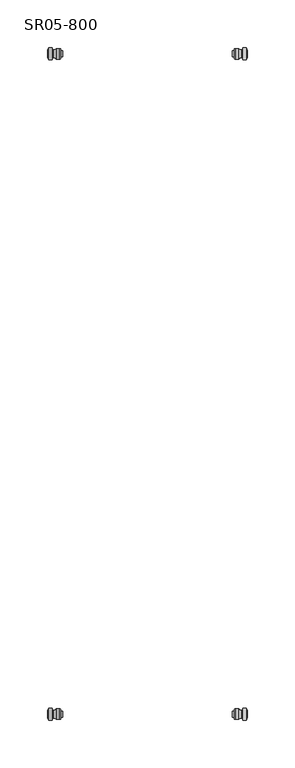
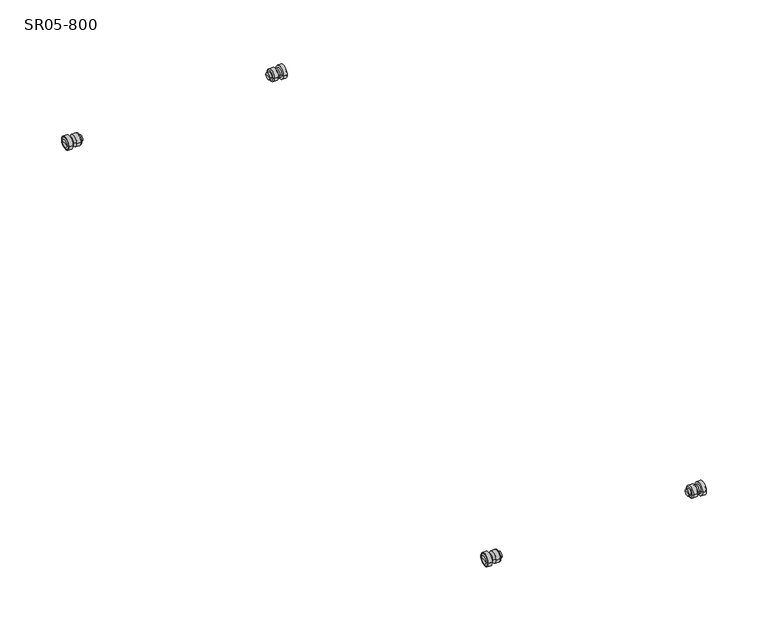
"""IFC4 building model written with IfcOpenShell, lengths in millimetres: proxy geometry, Уголки : SR05-800."""

from ifc_helpers import new_model, si_unit, point, frame, origin, place, context, project, spatial, circle_curve, ellipse_curve, trimmed, source, transform, mapped, element, save
from ifc_brep_helpers import plane_surface, cylinder_surface, revolved_surface, advanced_brep


def sr05_800_1027cb62(model_context):
    return source(origin(), model_context, "Body", "AdvancedBrep", [
        advanced_brep(
        [(104.3500066, -345.0, 24.0), (104.3500066, -348.4999948, 24.0), (104.3500066, -341.5000052, 24.0), (88.7499958, -342.0000014, 24.0), (88.7499958, -347.9999986, 24.0), (88.7499958, -345.0, 24.0), (90.7999933, -342.0000014, 24.0), (90.7999933, -347.9999986, 24.0), (90.7999933, -340.5000058, 24.0), (90.7999933, -349.4999942, 24.0), (91.7999994, -339.5000052, 24.0), (91.7999994, -350.4999948, 24.0), (95.7999994, -339.5000038, 24.0), (95.7999994, -350.4999962, 24.0), (97.9999959, -340.8266569, 24.0), (97.9999959, -349.1733431, 24.0), (100.0, -338.7499985, 24.0), (100.0, -351.2500015, 24.0), (100.0, -349.1733431, 24.0), (100.0, -340.8266569, 24.0), (103.4999996, -338.7499985, 24.0), (103.4999996, -351.2500015, 24.0), (103.4999996, -339.6218414, 24.0), (103.4999996, -350.3781586, 24.0)],
        [
            (0, 1),
            (1, 2, circle_curve(frame((104.3500066, -345.0, 24.0), z_axis=(1.0, 0.0, 0.0), x_axis=(0.0, -1.0, 0.0)), 3.4999948)),
            (2, 0),
            (2, 1, circle_curve(frame((104.3500066, -345.0, 24.0), z_axis=(1.0, 0.0, 0.0), x_axis=(0.0, -1.0, 0.0)), 3.4999948)),
            (3, 4, circle_curve(frame((88.7499958, -345.0, 24.0), z_axis=(-1.0, 0.0, 0.0), x_axis=(0.0, -1.0, 0.0)), 2.9999986)),
            (4, 5),
            (5, 3),
            (4, 3, circle_curve(frame((88.7499958, -345.0, 24.0), z_axis=(-1.0, 0.0, 0.0), x_axis=(0.0, -1.0, 0.0)), 2.9999986)),
            (6, 7, circle_curve(frame((90.7999933, -345.0, 24.0), z_axis=(-1.0, 0.0, 0.0), x_axis=(0.0, -1.0, 0.0)), 2.9999986)),
            (7, 4),
            (3, 6),
            (7, 6, circle_curve(frame((90.7999933, -345.0, 24.0), z_axis=(-1.0, 0.0, 0.0), x_axis=(0.0, -1.0, 0.0)), 2.9999986)),
            (8, 9, circle_curve(frame((90.7999933, -345.0, 24.0), z_axis=(-1.0, 0.0, 0.0), x_axis=(0.0, -1.0, 0.0)), 4.4999942)),
            (9, 7),
            (6, 8),
            (9, 8, circle_curve(frame((90.7999933, -345.0, 24.0), z_axis=(-1.0, 0.0, 0.0), x_axis=(0.0, -1.0, 0.0)), 4.4999942)),
            (10, 11, circle_curve(frame((91.7999994, -345.0, 24.0), z_axis=(-1.0, 0.0, 0.0), x_axis=(0.0, -1.0, 0.0)), 5.4999948)),
            (11, 9, circle_curve(frame((91.7999994, -349.4999948, 24.0), z_axis=(0.0, 0.0, -1.0), x_axis=(0.0, 1.0, 0.0)), 1.0)),
            (8, 10, circle_curve(frame((91.7999994, -340.5000052, 24.0), z_axis=(0.0, 0.0, -1.0), x_axis=(0.0, -1.0, 0.0)), 1.0)),
            (11, 10, circle_curve(frame((91.7999994, -345.0, 24.0), z_axis=(-1.0, 0.0, 0.0), x_axis=(0.0, -1.0, 0.0)), 5.4999948)),
            (12, 13, circle_curve(frame((95.7999994, -345.0, 24.0), z_axis=(-1.0, 0.0, 0.0), x_axis=(0.0, -1.0, 0.0)), 5.4999962)),
            (13, 11),
            (10, 12),
            (13, 12, circle_curve(frame((95.7999994, -345.0, 24.0), z_axis=(-1.0, 0.0, 0.0), x_axis=(0.0, -1.0, 0.0)), 5.4999962)),
            (14, 15, circle_curve(frame((97.9999959, -345.0, 24.0), z_axis=(-1.0, 0.0, 0.0), x_axis=(0.0, -1.0, 0.0)), 4.1733431)),
            (15, 13, circle_curve(frame((97.2999994, -350.4999948, 24.0), z_axis=(0.0, 0.0, 1.0), x_axis=(0.0, 1.0, 0.0)), 1.5)),
            (12, 14, circle_curve(frame((97.2999994, -339.5000052, 24.0), z_axis=(0.0, 0.0, 1.0), x_axis=(0.0, -1.0, 0.0)), 1.5)),
            (15, 14, circle_curve(frame((97.9999959, -345.0, 24.0), z_axis=(-1.0, 0.0, 0.0), x_axis=(0.0, -1.0, 0.0)), 4.1733431)),
            (16, 17, circle_curve(frame((100.0, -345.0, 24.0), z_axis=(-1.0, 0.0, 0.0), x_axis=(0.0, -1.0, 0.0)), 6.2500015)),
            (17, 18),
            (18, 19, circle_curve(frame((100.0, -345.0, 24.0), z_axis=(1.0, 0.0, 0.0), x_axis=(0.0, -1.0, 0.0)), 4.1733431)),
            (19, 16),
            (17, 16, circle_curve(frame((100.0, -345.0, 24.0), z_axis=(-1.0, 0.0, 0.0), x_axis=(0.0, -1.0, 0.0)), 6.2500015)),
            (19, 18, circle_curve(frame((100.0, -345.0, 24.0), z_axis=(1.0, 0.0, 0.0), x_axis=(0.0, -1.0, 0.0)), 4.1733431)),
            (20, 21, circle_curve(frame((103.4999996, -345.0, 24.0), z_axis=(-1.0, 0.0, 0.0), x_axis=(0.0, -1.0, 0.0)), 6.2500015)),
            (21, 17),
            (16, 20),
            (21, 20, circle_curve(frame((103.4999996, -345.0, 24.0), z_axis=(-1.0, 0.0, 0.0), x_axis=(0.0, -1.0, 0.0)), 6.2500015)),
            (22, 23, circle_curve(frame((103.4999996, -345.0, 24.0), z_axis=(-1.0, 0.0, 0.0), x_axis=(0.0, -1.0, 0.0)), 5.3781586)),
            (23, 21),
            (20, 22),
            (23, 22, circle_curve(frame((103.4999996, -345.0, 24.0), z_axis=(-1.0, 0.0, 0.0), x_axis=(0.0, -1.0, 0.0)), 5.3781586)),
            (1, 23, circle_curve(frame((101.8499994, -348.4999948, 24.0), z_axis=(0.0, 0.0, -1.0), x_axis=(0.0, 1.0, 0.0)), 2.5)),
            (22, 2, circle_curve(frame((101.8499994, -341.5000052, 24.0), z_axis=(0.0, 0.0, -1.0), x_axis=(0.0, -1.0, 0.0)), 2.5)),
            (18, 15),
            (14, 19),
        ],
        [
            plane_surface(frame((104.3500066, -345.0, 24.0), z_axis=(1.0, 0.0, 0.0), x_axis=(0.0, -1.0, 0.0))),
            plane_surface(frame((88.7499958, -345.0, 24.0), z_axis=(-1.0, 0.0, 0.0), x_axis=(0.0, -1.0, 0.0))),
            cylinder_surface(frame((-1900.0, -345.0, 24.0), z_axis=(1.0, 0.0, 0.0), x_axis=(0.0, -1.0, 0.0)), 2.9999986),
            plane_surface(frame((90.7999933, -345.0, 24.0), z_axis=(-1.0, 0.0, 0.0), x_axis=(0.0, -1.0, 0.0))),
            revolved_surface(trimmed(ellipse_curve(frame((91.7999994, -349.4999948, 24.0), z_axis=(0.0, 0.0, 1.0), x_axis=(0.0, 1.0, 0.0)), 1.0, 1.0), [point((90.7999994, -349.4999948, 24.0))], [point((91.7999994, -350.4999948, 24.0))], True, "CARTESIAN"), (-1900.0, -345.0, 24.0), (1.0, 0.0, 0.0)),
            cylinder_surface(frame((-1900.0, -345.0, 24.0), z_axis=(1.0, 0.0, 0.0), x_axis=(0.0, -1.0, 0.0)), 5.4999962),
            revolved_surface(trimmed(ellipse_curve(frame((97.2999994, -350.4999948, 24.0), z_axis=(0.0, 0.0, -1.0), x_axis=(0.0, 1.0, 0.0)), 1.5, 1.5), [point((95.7999994, -350.4999962, 24.0))], [point((97.9999959, -349.1733431, 24.0))], True, "CARTESIAN"), (-1900.0, -345.0, 24.0), (1.0, 0.0, 0.0)),
            plane_surface(frame((100.0, -345.0, 24.0), z_axis=(-1.0, 0.0, 0.0), x_axis=(0.0, -1.0, 0.0))),
            cylinder_surface(frame((-1900.0, -345.0, 24.0), z_axis=(1.0, 0.0, 0.0), x_axis=(0.0, -1.0, 0.0)), 6.2500015),
            plane_surface(frame((103.4999996, -345.0, 24.0), z_axis=(1.0, 0.0, 0.0), x_axis=(0.0, -1.0, 0.0))),
            revolved_surface(trimmed(ellipse_curve(frame((101.8499994, -348.4999948, 24.0), z_axis=(0.0, 0.0, 1.0), x_axis=(0.0, 1.0, 0.0)), 2.5, 2.5), [point((103.4999996, -350.3781586, 24.0))], [point((104.3499994, -348.4999948, 24.0))], True, "CARTESIAN"), (-1900.0, -345.0, 24.0), (1.0, 0.0, 0.0)),
            cylinder_surface(frame((-1900.0, -345.0, 24.0), z_axis=(1.0, 0.0, 0.0), x_axis=(0.0, -1.0, 0.0)), 4.1733431),
        ],
        [
            (0, [[1, 2, 3]]),
            (0, [[-3, 4, -1]]),
            (1, [[5, 6, 7]]),
            (1, [[8, -7, -6]]),
            (2, [[9, 10, -5, 11]]),
            (2, [[12, -11, -8, -10]]),
            (3, [[13, 14, -9, 15]]),
            (3, [[16, -15, -12, -14]]),
            (4, [[17, 18, -13, 19]]),
            (4, [[20, -19, -16, -18]]),
            (5, [[21, 22, -17, 23]]),
            (5, [[24, -23, -20, -22]]),
            (6, [[25, 26, -21, 27]]),
            (6, [[28, -27, -24, -26]]),
            (7, [[29, 30, 31, 32]]),
            (7, [[33, -32, 34, -30]]),
            (8, [[35, 36, -29, 37]]),
            (8, [[38, -37, -33, -36]]),
            (9, [[39, 40, -35, 41]]),
            (9, [[42, -41, -38, -40]]),
            (10, [[-2, 43, -39, 44]]),
            (10, [[-4, -44, -42, -43]]),
            (11, [[-31, 45, -25, 46]]),
            (11, [[-34, -46, -28, -45]]),
        ],
    ),
        advanced_brep(
        [(104.3500066, 345.0, 24.0), (104.3500066, 341.5000052, 24.0), (104.3500066, 348.4999948, 24.0), (88.7499958, 347.9999986, 24.0), (88.7499958, 342.0000014, 24.0), (88.7499958, 345.0, 24.0), (90.7999933, 347.9999986, 24.0), (90.7999933, 342.0000014, 24.0), (90.7999933, 349.4999942, 24.0), (90.7999933, 340.5000058, 24.0), (91.7999994, 350.4999948, 24.0), (91.7999994, 339.5000052, 24.0), (95.7999994, 350.4999962, 24.0), (95.7999994, 339.5000038, 24.0), (97.9999959, 349.1733431, 24.0), (97.9999959, 340.8266569, 24.0), (100.0, 351.2500015, 24.0), (100.0, 338.7499985, 24.0), (100.0, 340.8266569, 24.0), (100.0, 349.1733431, 24.0), (103.4999996, 351.2500015, 24.0), (103.4999996, 338.7499985, 24.0), (103.4999996, 350.3781586, 24.0), (103.4999996, 339.6218414, 24.0)],
        [
            (0, 1),
            (1, 2, circle_curve(frame((104.3500066, 345.0, 24.0), z_axis=(1.0, 0.0, 0.0), x_axis=(0.0, -1.0, 0.0)), 3.4999948)),
            (2, 0),
            (2, 1, circle_curve(frame((104.3500066, 345.0, 24.0), z_axis=(1.0, 0.0, 0.0), x_axis=(0.0, -1.0, 0.0)), 3.4999948)),
            (3, 4, circle_curve(frame((88.7499958, 345.0, 24.0), z_axis=(-1.0, 0.0, 0.0), x_axis=(0.0, -1.0, 0.0)), 2.9999986)),
            (4, 5),
            (5, 3),
            (4, 3, circle_curve(frame((88.7499958, 345.0, 24.0), z_axis=(-1.0, 0.0, 0.0), x_axis=(0.0, -1.0, 0.0)), 2.9999986)),
            (6, 7, circle_curve(frame((90.7999933, 345.0, 24.0), z_axis=(-1.0, 0.0, 0.0), x_axis=(0.0, -1.0, 0.0)), 2.9999986)),
            (7, 4),
            (3, 6),
            (7, 6, circle_curve(frame((90.7999933, 345.0, 24.0), z_axis=(-1.0, 0.0, 0.0), x_axis=(0.0, -1.0, 0.0)), 2.9999986)),
            (8, 9, circle_curve(frame((90.7999933, 345.0, 24.0), z_axis=(-1.0, 0.0, 0.0), x_axis=(0.0, -1.0, 0.0)), 4.4999942)),
            (9, 7),
            (6, 8),
            (9, 8, circle_curve(frame((90.7999933, 345.0, 24.0), z_axis=(-1.0, 0.0, 0.0), x_axis=(0.0, -1.0, 0.0)), 4.4999942)),
            (10, 11, circle_curve(frame((91.7999994, 345.0, 24.0), z_axis=(-1.0, 0.0, 0.0), x_axis=(0.0, -1.0, 0.0)), 5.4999948)),
            (11, 9, circle_curve(frame((91.7999994, 340.5000052, 24.0), z_axis=(0.0, 0.0, -1.0), x_axis=(0.0, 1.0, 0.0)), 1.0)),
            (8, 10, circle_curve(frame((91.7999994, 349.4999948, 24.0), z_axis=(0.0, 0.0, -1.0), x_axis=(0.0, -1.0, 0.0)), 1.0)),
            (11, 10, circle_curve(frame((91.7999994, 345.0, 24.0), z_axis=(-1.0, 0.0, 0.0), x_axis=(0.0, -1.0, 0.0)), 5.4999948)),
            (12, 13, circle_curve(frame((95.7999994, 345.0, 24.0), z_axis=(-1.0, 0.0, 0.0), x_axis=(0.0, -1.0, 0.0)), 5.4999962)),
            (13, 11),
            (10, 12),
            (13, 12, circle_curve(frame((95.7999994, 345.0, 24.0), z_axis=(-1.0, 0.0, 0.0), x_axis=(0.0, -1.0, 0.0)), 5.4999962)),
            (14, 15, circle_curve(frame((97.9999959, 345.0, 24.0), z_axis=(-1.0, 0.0, 0.0), x_axis=(0.0, -1.0, 0.0)), 4.1733431)),
            (15, 13, circle_curve(frame((97.2999994, 339.5000052, 24.0), z_axis=(0.0, 0.0, 1.0), x_axis=(0.0, 1.0, 0.0)), 1.5)),
            (12, 14, circle_curve(frame((97.2999994, 350.4999948, 24.0), z_axis=(0.0, 0.0, 1.0), x_axis=(0.0, -1.0, 0.0)), 1.5)),
            (15, 14, circle_curve(frame((97.9999959, 345.0, 24.0), z_axis=(-1.0, 0.0, 0.0), x_axis=(0.0, -1.0, 0.0)), 4.1733431)),
            (16, 17, circle_curve(frame((100.0, 345.0, 24.0), z_axis=(-1.0, 0.0, 0.0), x_axis=(0.0, -1.0, 0.0)), 6.2500015)),
            (17, 18),
            (18, 19, circle_curve(frame((100.0, 345.0, 24.0), z_axis=(1.0, 0.0, 0.0), x_axis=(0.0, -1.0, 0.0)), 4.1733431)),
            (19, 16),
            (17, 16, circle_curve(frame((100.0, 345.0, 24.0), z_axis=(-1.0, 0.0, 0.0), x_axis=(0.0, -1.0, 0.0)), 6.2500015)),
            (19, 18, circle_curve(frame((100.0, 345.0, 24.0), z_axis=(1.0, 0.0, 0.0), x_axis=(0.0, -1.0, 0.0)), 4.1733431)),
            (20, 21, circle_curve(frame((103.4999996, 345.0, 24.0), z_axis=(-1.0, 0.0, 0.0), x_axis=(0.0, -1.0, 0.0)), 6.2500015)),
            (21, 17),
            (16, 20),
            (21, 20, circle_curve(frame((103.4999996, 345.0, 24.0), z_axis=(-1.0, 0.0, 0.0), x_axis=(0.0, -1.0, 0.0)), 6.2500015)),
            (22, 23, circle_curve(frame((103.4999996, 345.0, 24.0), z_axis=(-1.0, 0.0, 0.0), x_axis=(0.0, -1.0, 0.0)), 5.3781586)),
            (23, 21),
            (20, 22),
            (23, 22, circle_curve(frame((103.4999996, 345.0, 24.0), z_axis=(-1.0, 0.0, 0.0), x_axis=(0.0, -1.0, 0.0)), 5.3781586)),
            (1, 23, circle_curve(frame((101.8499994, 341.5000052, 24.0), z_axis=(0.0, 0.0, -1.0), x_axis=(0.0, 1.0, 0.0)), 2.5)),
            (22, 2, circle_curve(frame((101.8499994, 348.4999948, 24.0), z_axis=(0.0, 0.0, -1.0), x_axis=(0.0, -1.0, 0.0)), 2.5)),
            (18, 15),
            (14, 19),
        ],
        [
            plane_surface(frame((104.3500066, 345.0, 24.0), z_axis=(1.0, 0.0, 0.0), x_axis=(0.0, -1.0, 0.0))),
            plane_surface(frame((88.7499958, 345.0, 24.0), z_axis=(-1.0, 0.0, 0.0), x_axis=(0.0, -1.0, 0.0))),
            cylinder_surface(frame((-1900.0, 345.0, 24.0), z_axis=(1.0, 0.0, 0.0), x_axis=(0.0, -1.0, 0.0)), 2.9999986),
            plane_surface(frame((90.7999933, 345.0, 24.0), z_axis=(-1.0, 0.0, 0.0), x_axis=(0.0, -1.0, 0.0))),
            revolved_surface(trimmed(ellipse_curve(frame((91.7999994, 340.5000052, 24.0), z_axis=(0.0, 0.0, 1.0), x_axis=(0.0, 1.0, 0.0)), 1.0, 1.0), [point((90.7999994, 340.5000052, 24.0))], [point((91.7999994, 339.5000052, 24.0))], True, "CARTESIAN"), (-1900.0, 345.0, 24.0), (1.0, 0.0, 0.0)),
            cylinder_surface(frame((-1900.0, 345.0, 24.0), z_axis=(1.0, 0.0, 0.0), x_axis=(0.0, -1.0, 0.0)), 5.4999962),
            revolved_surface(trimmed(ellipse_curve(frame((97.2999994, 339.5000052, 24.0), z_axis=(0.0, 0.0, -1.0), x_axis=(0.0, 1.0, 0.0)), 1.5, 1.5), [point((95.7999994, 339.5000038, 24.0))], [point((97.9999959, 340.8266569, 24.0))], True, "CARTESIAN"), (-1900.0, 345.0, 24.0), (1.0, 0.0, 0.0)),
            plane_surface(frame((100.0, 345.0, 24.0), z_axis=(-1.0, 0.0, 0.0), x_axis=(0.0, -1.0, 0.0))),
            cylinder_surface(frame((-1900.0, 345.0, 24.0), z_axis=(1.0, 0.0, 0.0), x_axis=(0.0, -1.0, 0.0)), 6.2500015),
            plane_surface(frame((103.4999996, 345.0, 24.0), z_axis=(1.0, 0.0, 0.0), x_axis=(0.0, -1.0, 0.0))),
            revolved_surface(trimmed(ellipse_curve(frame((101.8499994, 341.5000052, 24.0), z_axis=(0.0, 0.0, 1.0), x_axis=(0.0, 1.0, 0.0)), 2.5, 2.5), [point((103.4999996, 339.6218414, 24.0))], [point((104.3499994, 341.5000052, 24.0))], True, "CARTESIAN"), (-1900.0, 345.0, 24.0), (1.0, 0.0, 0.0)),
            cylinder_surface(frame((-1900.0, 345.0, 24.0), z_axis=(1.0, 0.0, 0.0), x_axis=(0.0, -1.0, 0.0)), 4.1733431),
        ],
        [
            (0, [[1, 2, 3]]),
            (0, [[-3, 4, -1]]),
            (1, [[5, 6, 7]]),
            (1, [[8, -7, -6]]),
            (2, [[9, 10, -5, 11]]),
            (2, [[12, -11, -8, -10]]),
            (3, [[13, 14, -9, 15]]),
            (3, [[16, -15, -12, -14]]),
            (4, [[17, 18, -13, 19]]),
            (4, [[20, -19, -16, -18]]),
            (5, [[21, 22, -17, 23]]),
            (5, [[24, -23, -20, -22]]),
            (6, [[25, 26, -21, 27]]),
            (6, [[28, -27, -24, -26]]),
            (7, [[29, 30, 31, 32]]),
            (7, [[33, -32, 34, -30]]),
            (8, [[35, 36, -29, 37]]),
            (8, [[38, -37, -33, -36]]),
            (9, [[39, 40, -35, 41]]),
            (9, [[42, -41, -38, -40]]),
            (10, [[-2, 43, -39, 44]]),
            (10, [[-4, -44, -42, -43]]),
            (11, [[-31, 45, -25, 46]]),
            (11, [[-34, -46, -28, -45]]),
        ],
    ),
        advanced_brep(
        [(-104.3500066, 345.0, 24.0), (-104.3500066, 348.4999948, 24.0), (-104.3500066, 341.5000052, 24.0), (-88.7499958, 342.0000014, 24.0), (-88.7499958, 347.9999986, 24.0), (-88.7499958, 345.0, 24.0), (-90.7999933, 342.0000014, 24.0), (-90.7999933, 347.9999986, 24.0), (-90.7999933, 340.5000058, 24.0), (-90.7999933, 349.4999942, 24.0), (-91.7999994, 339.5000052, 24.0), (-91.7999994, 350.4999948, 24.0), (-95.7999994, 339.5000038, 24.0), (-95.7999994, 350.4999962, 24.0), (-97.9999959, 340.8266569, 24.0), (-97.9999959, 349.1733431, 24.0), (-100.0, 338.7499985, 24.0), (-100.0, 351.2500015, 24.0), (-100.0, 349.1733431, 24.0), (-100.0, 340.8266569, 24.0), (-103.4999996, 338.7499985, 24.0), (-103.4999996, 351.2500015, 24.0), (-103.4999996, 339.6218414, 24.0), (-103.4999996, 350.3781586, 24.0)],
        [
            (0, 1),
            (1, 2, circle_curve(frame((-104.3500066, 345.0, 24.0), z_axis=(-1.0, 0.0, 0.0), x_axis=(0.0, 1.0, 0.0)), 3.4999948)),
            (2, 0),
            (2, 1, circle_curve(frame((-104.3500066, 345.0, 24.0), z_axis=(-1.0, 0.0, 0.0), x_axis=(0.0, 1.0, 0.0)), 3.4999948)),
            (3, 4, circle_curve(frame((-88.7499958, 345.0, 24.0), z_axis=(1.0, 0.0, 0.0), x_axis=(0.0, 1.0, 0.0)), 2.9999986)),
            (4, 5),
            (5, 3),
            (4, 3, circle_curve(frame((-88.7499958, 345.0, 24.0), z_axis=(1.0, 0.0, 0.0), x_axis=(0.0, 1.0, 0.0)), 2.9999986)),
            (6, 7, circle_curve(frame((-90.7999933, 345.0, 24.0), z_axis=(1.0, 0.0, 0.0), x_axis=(0.0, 1.0, 0.0)), 2.9999986)),
            (7, 4),
            (3, 6),
            (7, 6, circle_curve(frame((-90.7999933, 345.0, 24.0), z_axis=(1.0, 0.0, 0.0), x_axis=(0.0, 1.0, 0.0)), 2.9999986)),
            (8, 9, circle_curve(frame((-90.7999933, 345.0, 24.0), z_axis=(1.0, 0.0, 0.0), x_axis=(0.0, 1.0, 0.0)), 4.4999942)),
            (9, 7),
            (6, 8),
            (9, 8, circle_curve(frame((-90.7999933, 345.0, 24.0), z_axis=(1.0, 0.0, 0.0), x_axis=(0.0, 1.0, 0.0)), 4.4999942)),
            (10, 11, circle_curve(frame((-91.7999994, 345.0, 24.0), z_axis=(1.0, 0.0, 0.0), x_axis=(0.0, 1.0, 0.0)), 5.4999948)),
            (11, 9, circle_curve(frame((-91.7999994, 349.4999948, 24.0), z_axis=(0.0, 0.0, -1.0), x_axis=(0.0, -1.0, 0.0)), 1.0)),
            (8, 10, circle_curve(frame((-91.7999994, 340.5000052, 24.0), z_axis=(0.0, 0.0, -1.0), x_axis=(0.0, 1.0, 0.0)), 1.0)),
            (11, 10, circle_curve(frame((-91.7999994, 345.0, 24.0), z_axis=(1.0, 0.0, 0.0), x_axis=(0.0, 1.0, 0.0)), 5.4999948)),
            (12, 13, circle_curve(frame((-95.7999994, 345.0, 24.0), z_axis=(1.0, 0.0, 0.0), x_axis=(0.0, 1.0, 0.0)), 5.4999962)),
            (13, 11),
            (10, 12),
            (13, 12, circle_curve(frame((-95.7999994, 345.0, 24.0), z_axis=(1.0, 0.0, 0.0), x_axis=(0.0, 1.0, 0.0)), 5.4999962)),
            (14, 15, circle_curve(frame((-97.9999959, 345.0, 24.0), z_axis=(1.0, 0.0, 0.0), x_axis=(0.0, 1.0, 0.0)), 4.1733431)),
            (15, 13, circle_curve(frame((-97.2999994, 350.4999948, 24.0), z_axis=(0.0, 0.0, 1.0), x_axis=(0.0, -1.0, 0.0)), 1.5)),
            (12, 14, circle_curve(frame((-97.2999994, 339.5000052, 24.0), z_axis=(0.0, 0.0, 1.0), x_axis=(0.0, 1.0, 0.0)), 1.5)),
            (15, 14, circle_curve(frame((-97.9999959, 345.0, 24.0), z_axis=(1.0, 0.0, 0.0), x_axis=(0.0, 1.0, 0.0)), 4.1733431)),
            (16, 17, circle_curve(frame((-100.0, 345.0, 24.0), z_axis=(1.0, 0.0, 0.0), x_axis=(0.0, 1.0, 0.0)), 6.2500015)),
            (17, 18),
            (18, 19, circle_curve(frame((-100.0, 345.0, 24.0), z_axis=(-1.0, 0.0, 0.0), x_axis=(0.0, 1.0, 0.0)), 4.1733431)),
            (19, 16),
            (17, 16, circle_curve(frame((-100.0, 345.0, 24.0), z_axis=(1.0, 0.0, 0.0), x_axis=(0.0, 1.0, 0.0)), 6.2500015)),
            (19, 18, circle_curve(frame((-100.0, 345.0, 24.0), z_axis=(-1.0, 0.0, 0.0), x_axis=(0.0, 1.0, 0.0)), 4.1733431)),
            (20, 21, circle_curve(frame((-103.4999996, 345.0, 24.0), z_axis=(1.0, 0.0, 0.0), x_axis=(0.0, 1.0, 0.0)), 6.2500015)),
            (21, 17),
            (16, 20),
            (21, 20, circle_curve(frame((-103.4999996, 345.0, 24.0), z_axis=(1.0, 0.0, 0.0), x_axis=(0.0, 1.0, 0.0)), 6.2500015)),
            (22, 23, circle_curve(frame((-103.4999996, 345.0, 24.0), z_axis=(1.0, 0.0, 0.0), x_axis=(0.0, 1.0, 0.0)), 5.3781586)),
            (23, 21),
            (20, 22),
            (23, 22, circle_curve(frame((-103.4999996, 345.0, 24.0), z_axis=(1.0, 0.0, 0.0), x_axis=(0.0, 1.0, 0.0)), 5.3781586)),
            (1, 23, circle_curve(frame((-101.8499994, 348.4999948, 24.0), z_axis=(0.0, 0.0, -1.0), x_axis=(0.0, -1.0, 0.0)), 2.5)),
            (22, 2, circle_curve(frame((-101.8499994, 341.5000052, 24.0), z_axis=(0.0, 0.0, -1.0), x_axis=(0.0, 1.0, 0.0)), 2.5)),
            (18, 15),
            (14, 19),
        ],
        [
            plane_surface(frame((-104.3500066, 345.0, 24.0), z_axis=(-1.0, 0.0, 0.0), x_axis=(0.0, 1.0, 0.0))),
            plane_surface(frame((-88.7499958, 345.0, 24.0), z_axis=(1.0, 0.0, 0.0), x_axis=(0.0, 1.0, 0.0))),
            cylinder_surface(frame((1900.0, 345.0, 24.0), z_axis=(-1.0, 0.0, 0.0), x_axis=(0.0, 1.0, 0.0)), 2.9999986),
            plane_surface(frame((-90.7999933, 345.0, 24.0), z_axis=(1.0, 0.0, 0.0), x_axis=(0.0, 1.0, 0.0))),
            revolved_surface(trimmed(ellipse_curve(frame((-91.7999994, 349.4999948, 24.0), z_axis=(0.0, 0.0, 1.0), x_axis=(0.0, -1.0, 0.0)), 1.0, 1.0), [point((-90.7999994, 349.4999948, 24.0))], [point((-91.7999994, 350.4999948, 24.0))], True, "CARTESIAN"), (1900.0, 345.0, 24.0), (-1.0, 0.0, 0.0)),
            cylinder_surface(frame((1900.0, 345.0, 24.0), z_axis=(-1.0, 0.0, 0.0), x_axis=(0.0, 1.0, 0.0)), 5.4999962),
            revolved_surface(trimmed(ellipse_curve(frame((-97.2999994, 350.4999948, 24.0), z_axis=(0.0, 0.0, -1.0), x_axis=(0.0, -1.0, 0.0)), 1.5, 1.5), [point((-95.7999994, 350.4999962, 24.0))], [point((-97.9999959, 349.1733431, 24.0))], True, "CARTESIAN"), (1900.0, 345.0, 24.0), (-1.0, 0.0, 0.0)),
            plane_surface(frame((-100.0, 345.0, 24.0), z_axis=(1.0, 0.0, 0.0), x_axis=(0.0, 1.0, 0.0))),
            cylinder_surface(frame((1900.0, 345.0, 24.0), z_axis=(-1.0, 0.0, 0.0), x_axis=(0.0, 1.0, 0.0)), 6.2500015),
            plane_surface(frame((-103.4999996, 345.0, 24.0), z_axis=(-1.0, 0.0, 0.0), x_axis=(0.0, 1.0, 0.0))),
            revolved_surface(trimmed(ellipse_curve(frame((-101.8499994, 348.4999948, 24.0), z_axis=(0.0, 0.0, 1.0), x_axis=(0.0, -1.0, 0.0)), 2.5, 2.5), [point((-103.4999996, 350.3781586, 24.0))], [point((-104.3499994, 348.4999948, 24.0))], True, "CARTESIAN"), (1900.0, 345.0, 24.0), (-1.0, 0.0, 0.0)),
            cylinder_surface(frame((1900.0, 345.0, 24.0), z_axis=(-1.0, 0.0, 0.0), x_axis=(0.0, 1.0, 0.0)), 4.1733431),
        ],
        [
            (0, [[1, 2, 3]]),
            (0, [[-3, 4, -1]]),
            (1, [[5, 6, 7]]),
            (1, [[8, -7, -6]]),
            (2, [[9, 10, -5, 11]]),
            (2, [[12, -11, -8, -10]]),
            (3, [[13, 14, -9, 15]]),
            (3, [[16, -15, -12, -14]]),
            (4, [[17, 18, -13, 19]]),
            (4, [[20, -19, -16, -18]]),
            (5, [[21, 22, -17, 23]]),
            (5, [[24, -23, -20, -22]]),
            (6, [[25, 26, -21, 27]]),
            (6, [[28, -27, -24, -26]]),
            (7, [[29, 30, 31, 32]]),
            (7, [[33, -32, 34, -30]]),
            (8, [[35, 36, -29, 37]]),
            (8, [[38, -37, -33, -36]]),
            (9, [[39, 40, -35, 41]]),
            (9, [[42, -41, -38, -40]]),
            (10, [[-2, 43, -39, 44]]),
            (10, [[-4, -44, -42, -43]]),
            (11, [[-31, 45, -25, 46]]),
            (11, [[-34, -46, -28, -45]]),
        ],
    ),
        advanced_brep(
        [(-104.3500066, -345.0, 24.0), (-104.3500066, -341.5000052, 24.0), (-104.3500066, -348.4999948, 24.0), (-88.7499958, -347.9999986, 24.0), (-88.7499958, -342.0000014, 24.0), (-88.7499958, -345.0, 24.0), (-90.7999933, -347.9999986, 24.0), (-90.7999933, -342.0000014, 24.0), (-90.7999933, -349.4999942, 24.0), (-90.7999933, -340.5000058, 24.0), (-91.7999994, -350.4999948, 24.0), (-91.7999994, -339.5000052, 24.0), (-95.7999994, -350.4999962, 24.0), (-95.7999994, -339.5000038, 24.0), (-97.9999959, -349.1733431, 24.0), (-97.9999959, -340.8266569, 24.0), (-100.0, -351.2500015, 24.0), (-100.0, -338.7499985, 24.0), (-100.0, -340.8266569, 24.0), (-100.0, -349.1733431, 24.0), (-103.4999996, -351.2500015, 24.0), (-103.4999996, -338.7499985, 24.0), (-103.4999996, -350.3781586, 24.0), (-103.4999996, -339.6218414, 24.0)],
        [
            (0, 1),
            (1, 2, circle_curve(frame((-104.3500066, -345.0, 24.0), z_axis=(-1.0, 0.0, 0.0), x_axis=(0.0, 1.0000000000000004, 0.0)), 3.4999948)),
            (2, 0),
            (2, 1, circle_curve(frame((-104.3500066, -345.0, 24.0), z_axis=(-1.0, 0.0, 0.0), x_axis=(0.0, 1.0000000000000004, 0.0)), 3.4999948)),
            (3, 4, circle_curve(frame((-88.7499958, -345.0, 24.0), z_axis=(1.0, 0.0, 0.0), x_axis=(0.0, 1.0000000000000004, 0.0)), 2.9999986)),
            (4, 5),
            (5, 3),
            (4, 3, circle_curve(frame((-88.7499958, -345.0, 24.0), z_axis=(1.0, 0.0, 0.0), x_axis=(0.0, 1.0000000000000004, 0.0)), 2.9999986)),
            (6, 7, circle_curve(frame((-90.7999933, -345.0, 24.0), z_axis=(1.0, 0.0, 0.0), x_axis=(0.0, 1.0000000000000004, 0.0)), 2.9999986)),
            (7, 4),
            (3, 6),
            (7, 6, circle_curve(frame((-90.7999933, -345.0, 24.0), z_axis=(1.0, 0.0, 0.0), x_axis=(0.0, 1.0000000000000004, 0.0)), 2.9999986)),
            (8, 9, circle_curve(frame((-90.7999933, -345.0, 24.0), z_axis=(1.0, 0.0, 0.0), x_axis=(0.0, 1.0000000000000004, 0.0)), 4.4999942)),
            (9, 7),
            (6, 8),
            (9, 8, circle_curve(frame((-90.7999933, -345.0, 24.0), z_axis=(1.0, 0.0, 0.0), x_axis=(0.0, 1.0000000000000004, 0.0)), 4.4999942)),
            (10, 11, circle_curve(frame((-91.7999994, -345.0, 24.0), z_axis=(1.0, 0.0, 0.0), x_axis=(0.0, 1.0000000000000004, 0.0)), 5.4999948)),
            (11, 9, circle_curve(frame((-91.7999994, -340.5000052, 24.0), z_axis=(0.0, 0.0, -1.0), x_axis=(0.0, -1.0000000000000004, 0.0)), 1.0)),
            (8, 10, circle_curve(frame((-91.7999994, -349.4999948, 24.0), z_axis=(0.0, 0.0, -1.0), x_axis=(0.0, 1.0000000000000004, 0.0)), 1.0)),
            (11, 10, circle_curve(frame((-91.7999994, -345.0, 24.0), z_axis=(1.0, 0.0, 0.0), x_axis=(0.0, 1.0000000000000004, 0.0)), 5.4999948)),
            (12, 13, circle_curve(frame((-95.7999994, -345.0, 24.0), z_axis=(1.0, 0.0, 0.0), x_axis=(0.0, 1.0000000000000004, 0.0)), 5.4999962)),
            (13, 11),
            (10, 12),
            (13, 12, circle_curve(frame((-95.7999994, -345.0, 24.0), z_axis=(1.0, 0.0, 0.0), x_axis=(0.0, 1.0000000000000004, 0.0)), 5.4999962)),
            (14, 15, circle_curve(frame((-97.9999959, -345.0, 24.0), z_axis=(1.0, 0.0, 0.0), x_axis=(0.0, 1.0000000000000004, 0.0)), 4.1733431)),
            (15, 13, circle_curve(frame((-97.2999994, -339.5000052, 24.0), z_axis=(0.0, 0.0, 1.0), x_axis=(0.0, -1.0000000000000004, 0.0)), 1.5)),
            (12, 14, circle_curve(frame((-97.2999994, -350.4999948, 24.0), z_axis=(0.0, 0.0, 1.0), x_axis=(0.0, 1.0000000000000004, 0.0)), 1.5)),
            (15, 14, circle_curve(frame((-97.9999959, -345.0, 24.0), z_axis=(1.0, 0.0, 0.0), x_axis=(0.0, 1.0000000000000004, 0.0)), 4.1733431)),
            (16, 17, circle_curve(frame((-100.0, -345.0, 24.0), z_axis=(1.0, 0.0, 0.0), x_axis=(0.0, 1.0000000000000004, 0.0)), 6.2500015)),
            (17, 18),
            (18, 19, circle_curve(frame((-100.0, -345.0, 24.0), z_axis=(-1.0, 0.0, 0.0), x_axis=(0.0, 1.0000000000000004, 0.0)), 4.1733431)),
            (19, 16),
            (17, 16, circle_curve(frame((-100.0, -345.0, 24.0), z_axis=(1.0, 0.0, 0.0), x_axis=(0.0, 1.0000000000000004, 0.0)), 6.2500015)),
            (19, 18, circle_curve(frame((-100.0, -345.0, 24.0), z_axis=(-1.0, 0.0, 0.0), x_axis=(0.0, 1.0000000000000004, 0.0)), 4.1733431)),
            (20, 21, circle_curve(frame((-103.4999996, -345.0, 24.0), z_axis=(1.0, 0.0, 0.0), x_axis=(0.0, 1.0000000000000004, 0.0)), 6.2500015)),
            (21, 17),
            (16, 20),
            (21, 20, circle_curve(frame((-103.4999996, -345.0, 24.0), z_axis=(1.0, 0.0, 0.0), x_axis=(0.0, 1.0000000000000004, 0.0)), 6.2500015)),
            (22, 23, circle_curve(frame((-103.4999996, -345.0, 24.0), z_axis=(1.0, 0.0, 0.0), x_axis=(0.0, 1.0000000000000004, 0.0)), 5.3781586)),
            (23, 21),
            (20, 22),
            (23, 22, circle_curve(frame((-103.4999996, -345.0, 24.0), z_axis=(1.0, 0.0, 0.0), x_axis=(0.0, 1.0000000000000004, 0.0)), 5.3781586)),
            (1, 23, circle_curve(frame((-101.8499994, -341.5000052, 24.0), z_axis=(0.0, 0.0, -1.0), x_axis=(0.0, -1.0000000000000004, 0.0)), 2.5)),
            (22, 2, circle_curve(frame((-101.8499994, -348.4999948, 24.0), z_axis=(0.0, 0.0, -1.0), x_axis=(0.0, 1.0000000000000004, 0.0)), 2.5)),
            (18, 15),
            (14, 19),
        ],
        [
            plane_surface(frame((-104.3500066, -345.0, 24.0), z_axis=(-1.0, 0.0, 0.0), x_axis=(0.0, 1.0, 0.0))),
            plane_surface(frame((-88.7499958, -345.0, 24.0), z_axis=(1.0, 0.0, 0.0), x_axis=(0.0, 1.0, 0.0))),
            cylinder_surface(frame((1900.0, -345.0, 24.0), z_axis=(-1.0000000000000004, 0.0, 0.0), x_axis=(0.0, 1.0000000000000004, 0.0)), 2.9999986),
            plane_surface(frame((-90.7999933, -345.0, 24.0), z_axis=(1.0, 0.0, 0.0), x_axis=(0.0, 1.0, 0.0))),
            revolved_surface(trimmed(ellipse_curve(frame((-91.7999994, -340.5000052, 24.0), z_axis=(0.0, 0.0, 1.0), x_axis=(0.0, -1.0000000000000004, 0.0)), 1.0, 1.0), [point((-90.7999994, -340.5000052, 24.0))], [point((-91.7999994, -339.5000052, 24.0))], True, "CARTESIAN"), (1900.0, -345.0, 24.0), (-1.0000000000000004, 0.0, 0.0)),
            cylinder_surface(frame((1900.0, -345.0, 24.0), z_axis=(-1.0000000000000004, 0.0, 0.0), x_axis=(0.0, 1.0000000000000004, 0.0)), 5.4999962),
            revolved_surface(trimmed(ellipse_curve(frame((-97.2999994, -339.5000052, 24.0), z_axis=(0.0, 0.0, -1.0), x_axis=(0.0, -1.0000000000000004, 0.0)), 1.5, 1.5), [point((-95.7999994, -339.5000038, 24.0))], [point((-97.9999959, -340.8266569, 24.0))], True, "CARTESIAN"), (1900.0, -345.0, 24.0), (-1.0000000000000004, 0.0, 0.0)),
            plane_surface(frame((-100.0, -345.0, 24.0), z_axis=(1.0, 0.0, 0.0), x_axis=(0.0, 1.0, 0.0))),
            cylinder_surface(frame((1900.0, -345.0, 24.0), z_axis=(-1.0000000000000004, 0.0, 0.0), x_axis=(0.0, 1.0000000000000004, 0.0)), 6.2500015),
            plane_surface(frame((-103.4999996, -345.0, 24.0), z_axis=(-1.0, 0.0, 0.0), x_axis=(0.0, 1.0, 0.0))),
            revolved_surface(trimmed(ellipse_curve(frame((-101.8499994, -341.5000052, 24.0), z_axis=(0.0, 0.0, 1.0), x_axis=(0.0, -1.0000000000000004, 0.0)), 2.5, 2.5), [point((-103.4999996, -339.6218414, 24.0))], [point((-104.3499994, -341.5000052, 24.0))], True, "CARTESIAN"), (1900.0, -345.0, 24.0), (-1.0000000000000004, 0.0, 0.0)),
            cylinder_surface(frame((1900.0, -345.0, 24.0), z_axis=(-1.0000000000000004, 0.0, 0.0), x_axis=(0.0, 1.0000000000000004, 0.0)), 4.1733431),
        ],
        [
            (0, [[1, 2, 3]]),
            (0, [[-3, 4, -1]]),
            (1, [[5, 6, 7]]),
            (1, [[8, -7, -6]]),
            (2, [[9, 10, -5, 11]]),
            (2, [[12, -11, -8, -10]]),
            (3, [[13, 14, -9, 15]]),
            (3, [[16, -15, -12, -14]]),
            (4, [[17, 18, -13, 19]]),
            (4, [[20, -19, -16, -18]]),
            (5, [[21, 22, -17, 23]]),
            (5, [[24, -23, -20, -22]]),
            (6, [[25, 26, -21, 27]]),
            (6, [[28, -27, -24, -26]]),
            (7, [[29, 30, 31, 32]]),
            (7, [[33, -32, 34, -30]]),
            (8, [[35, 36, -29, 37]]),
            (8, [[38, -37, -33, -36]]),
            (9, [[39, 40, -35, 41]]),
            (9, [[42, -41, -38, -40]]),
            (10, [[-2, 43, -39, 44]]),
            (10, [[-4, -44, -42, -43]]),
            (11, [[-31, 45, -25, 46]]),
            (11, [[-34, -46, -28, -45]]),
        ],
    ),
    ])


if __name__ == "__main__":
    model = new_model("IFC4")
    model_context = context("Model", 3, world=origin())
    ifc_project = project(units=[si_unit("LENGTHUNIT", "METRE", prefix="MILLI")], contexts=[model_context])
    site = spatial("IfcSite", under=ifc_project)
    building = spatial("IfcBuilding", under=site)
    placement = place(None, origin())
    sr05_800_shape = sr05_800_1027cb62(model_context)
    element("IfcBuildingElementProxy", 1, Name="Уголки : SR05-800", ObjectType="Уголки : SR05-800", at=placement, inside=building, context=model_context, shape_type="MappedRepresentation", body=[
        mapped(sr05_800_shape, transform((0.0, 0.0, 0.0), x_axis=(1.0, 0.0, 0.0), y_axis=(0.0, 1.0, 0.0), z_axis=(0.0, 0.0, 1.0))),
    ])
    save(model, "model.ifc")
